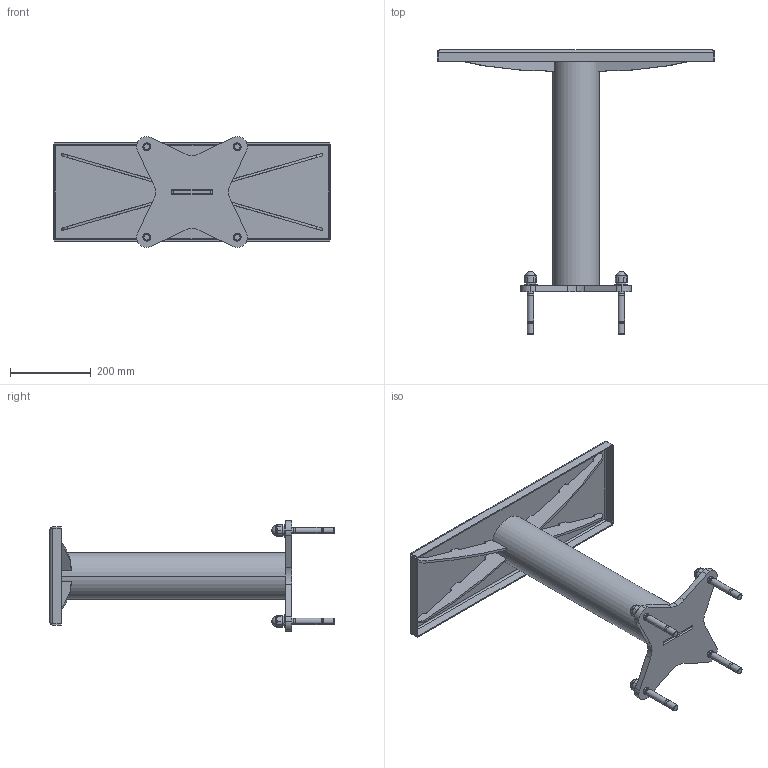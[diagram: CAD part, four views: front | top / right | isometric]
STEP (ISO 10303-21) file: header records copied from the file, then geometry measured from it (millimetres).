
FILE_DESCRIPTION (( 'STEP AP203' ), '1' );
FILE_NAME ('BANC-CT0118 - BANC STEP XL H=600 V1.0.STEP', '2020-03-27T13:03:48', ( '' ), ( '' ), 'SwSTEP 2.0', 'SolidWorks 2019', '' );
FILE_SCHEMA (( 'CONFIG_CONTROL_DESIGN' ));
Length unit declared in the file: millimetre
Products named in the file (16): BANC-CT0118 - BANC STEP XL H=600 V1.0; TOLPLINT-114 - Tôle intérieure tube d.114,3 V1.0; PLATINE BASE SWO V1.1_D.114 - sans accessoire; SR0441 - Rondelle Grower M16; Goujon d''ancrage M16x145 + Rondelle grower + Cache Ecrou  _D.114 - 4 chevilles; PU-TOLPLSWO.B - Platine base SWO V1.2; TOLSTEP - T犨e banc step 700x250 V1.0; TROND114,3X3 - Tube D.114,3x3 L=582 V1.0; TOLGOUS280x50 - Gousset 280x50 廧.6 V1.0; Ecrou H M16 livré avec goujon d''ancrage_default; SC0316 - Cache ecrou M16; SB0145 - Goujon d''ancrage M16x145; Rondelle d16 livrée avec goujon d''ancrage_M16
Assembly tree (33 placements, depth 3):
  BANC-CT0118 - BANC STEP XL H=600 V1.0
    TROND114,3X3 - Tube D.114,3x3 L=582 V1.0
    PLATINE BASE SWO V1.1_D.114 - sans accessoire
      PU-TOLPLSWO.B - Platine base SWO V1.2
      TOLPLINT-114 - Tôle intérieure tube d.114,3 V1.0
    TOLSTEP - T犨e banc step 700x250 V1.0
    TOLGOUS280x50 - Gousset 280x50 廧.6 V1.0  x4
    Goujon d''ancrage M16x145 + Rondelle grower + Cache Ecrou  _D.114 - 4 chevilles
      SB0145 - Goujon d''ancrage M16x145
      Rondelle d16 livrée avec goujon d''ancrage_M16
      Ecrou H M16 livré avec goujon d''ancrage_default
      SR0441 - Rondelle Grower M16
      SC0316 - Cache ecrou M16
    Goujon d''ancrage M16x145 + Rondelle grower + Cache Ecrou  _D.114 - 4 chevilles
      SB0145 - Goujon d''ancrage M16x145
      Rondelle d16 livrée avec goujon d''ancrage_M16
      Ecrou H M16 livré avec goujon d''ancrage_default
      SR0441 - Rondelle Grower M16
      SC0316 - Cache ecrou M16
    Goujon d''ancrage M16x145 + Rondelle grower + Cache Ecrou  _D.114 - 4 chevilles
      SB0145 - Goujon d''ancrage M16x145
      Rondelle d16 livrée avec goujon d''ancrage_M16
      Ecrou H M16 livré avec goujon d''ancrage_default
      SR0441 - Rondelle Grower M16
      SC0316 - Cache ecrou M16
    Goujon d''ancrage M16x145 + Rondelle grower + Cache Ecrou  _D.114 - 4 chevilles
      SB0145 - Goujon d''ancrage M16x145
      Rondelle d16 livrée avec goujon d''ancrage_M16
      Ecrou H M16 livré avec goujon d''ancrage_default
      SR0441 - Rondelle Grower M16
      SC0316 - Cache ecrou M16
Bounding box: 690 x 705.2 x 275 mm (x, y, z)
Volume: 2446639.3 mm3; surface area: 1136890.7 mm2
Topology: 32 solids, 32 shells, 547 faces, 1229 edges, 758 vertices
Faces by surface type: plane 212, cylinder 173, cone 136, sphere 16, bspline 10
Entity records: 8917 total; most frequent: CARTESIAN_POINT 1774, DIRECTION 1089, ORIENTED_EDGE 994, EDGE_CURVE 497, AXIS2_PLACEMENT_3D 415, VERTEX_POINT 308, LINE 259, VECTOR 259
